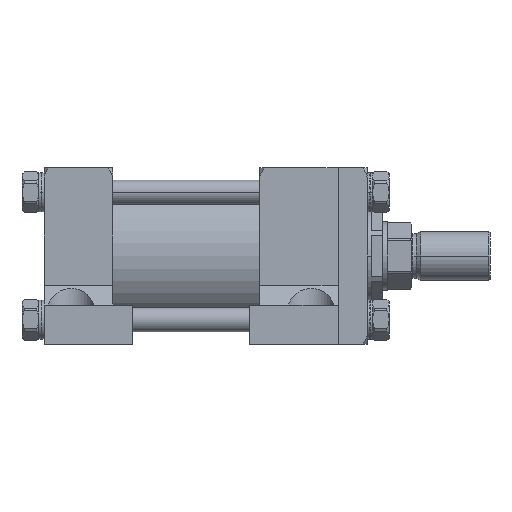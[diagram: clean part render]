
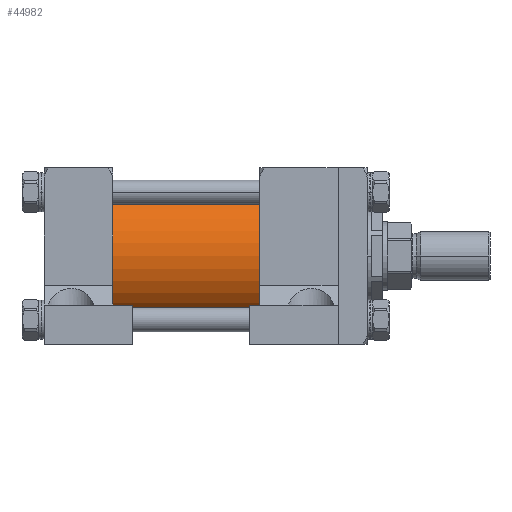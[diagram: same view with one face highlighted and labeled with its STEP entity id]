
A CAD part, front view. The second image highlights one B-rep face of the part: STEP entity #44982.
In plain terms, the highlighted cylindrical face has radius 47.625 mm (diameter 95.25 mm), a partial arc.
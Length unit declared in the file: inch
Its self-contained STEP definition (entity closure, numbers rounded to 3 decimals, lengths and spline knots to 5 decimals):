
#3005 = AXIS2_PLACEMENT_3D ( 'NONE', #49202, #34809, #19013 ) ;
#5654 = FACE_OUTER_BOUND ( 'NONE', #25361, .T. ) ;
#6349 = VERTEX_POINT ( 'NONE', #37210 ) ;
#6704 = CARTESIAN_POINT ( 'NONE',  ( -7.875, 0., -1.875 ) ) ;
#12492 = CARTESIAN_POINT ( 'NONE',  ( -3.625, 0., 1.875 ) ) ;
#13018 = EDGE_CURVE ( 'NONE', #6349, #21307, #58935, .T. ) ;
#14736 = VECTOR ( 'NONE', #56657, 39.37008 ) ;
#15647 = VECTOR ( 'NONE', #32435, 39.37008 ) ;
#19013 = DIRECTION ( 'NONE',  ( 0., 1., 0. ) ) ;
#20863 = DIRECTION ( 'NONE',  ( 1., 0., 0. ) ) ;
#21173 = CYLINDRICAL_SURFACE ( 'NONE', #35487, 1.875 ) ;
#21248 = CARTESIAN_POINT ( 'NONE',  ( -3.625, 0., 0. ) ) ;
#21307 = VERTEX_POINT ( 'NONE', #6704 ) ;
#25361 = EDGE_LOOP ( 'NONE', ( #47441, #35709, #53560, #31496 ) ) ;
#31496 = ORIENTED_EDGE ( 'NONE', *, *, #50197, .F. ) ;
#32129 = LINE ( 'NONE', #41563, #15647 ) ;
#32435 = DIRECTION ( 'NONE',  ( 1., 0., 0. ) ) ;
#34686 = EDGE_CURVE ( 'NONE', #21307, #47350, #41348, .T. ) ;
#34809 = DIRECTION ( 'NONE',  ( 1., 0., 0. ) ) ;
#35487 = AXIS2_PLACEMENT_3D ( 'NONE', #54949, #20863, #50112 ) ;
#35709 = ORIENTED_EDGE ( 'NONE', *, *, #13018, .T. ) ;
#36449 = DIRECTION ( 'NONE',  ( 1., 0., 0. ) ) ;
#37210 = CARTESIAN_POINT ( 'NONE',  ( -7.875, 0., 1.875 ) ) ;
#41348 = LINE ( 'NONE', #45643, #14736 ) ;
#41563 = CARTESIAN_POINT ( 'NONE',  ( -7.875, 0., 1.875 ) ) ;
#43103 = AXIS2_PLACEMENT_3D ( 'NONE', #21248, #36449, #51771 ) ;
#44982 = ADVANCED_FACE ( 'NONE', ( #5654 ), #21173, .T. ) ;
#45643 = CARTESIAN_POINT ( 'NONE',  ( -7.875, 0., -1.875 ) ) ;
#47350 = VERTEX_POINT ( 'NONE', #63415 ) ;
#47441 = ORIENTED_EDGE ( 'NONE', *, *, #55411, .F. ) ;
#49202 = CARTESIAN_POINT ( 'NONE',  ( -7.875, 0., 0. ) ) ;
#50112 = DIRECTION ( 'NONE',  ( 0., 0., -1. ) ) ;
#50197 = EDGE_CURVE ( 'NONE', #53681, #47350, #53474, .T. ) ;
#51771 = DIRECTION ( 'NONE',  ( 0., 1., 0. ) ) ;
#53474 = CIRCLE ( 'NONE', #43103, 1.875 ) ;
#53560 = ORIENTED_EDGE ( 'NONE', *, *, #34686, .T. ) ;
#53681 = VERTEX_POINT ( 'NONE', #12492 ) ;
#54949 = CARTESIAN_POINT ( 'NONE',  ( -7.875, 0., 0. ) ) ;
#55411 = EDGE_CURVE ( 'NONE', #6349, #53681, #32129, .T. ) ;
#56657 = DIRECTION ( 'NONE',  ( 1., 0., 0. ) ) ;
#58935 = CIRCLE ( 'NONE', #3005, 1.875 ) ;
#63415 = CARTESIAN_POINT ( 'NONE',  ( -3.625, 0., -1.875 ) ) ;
